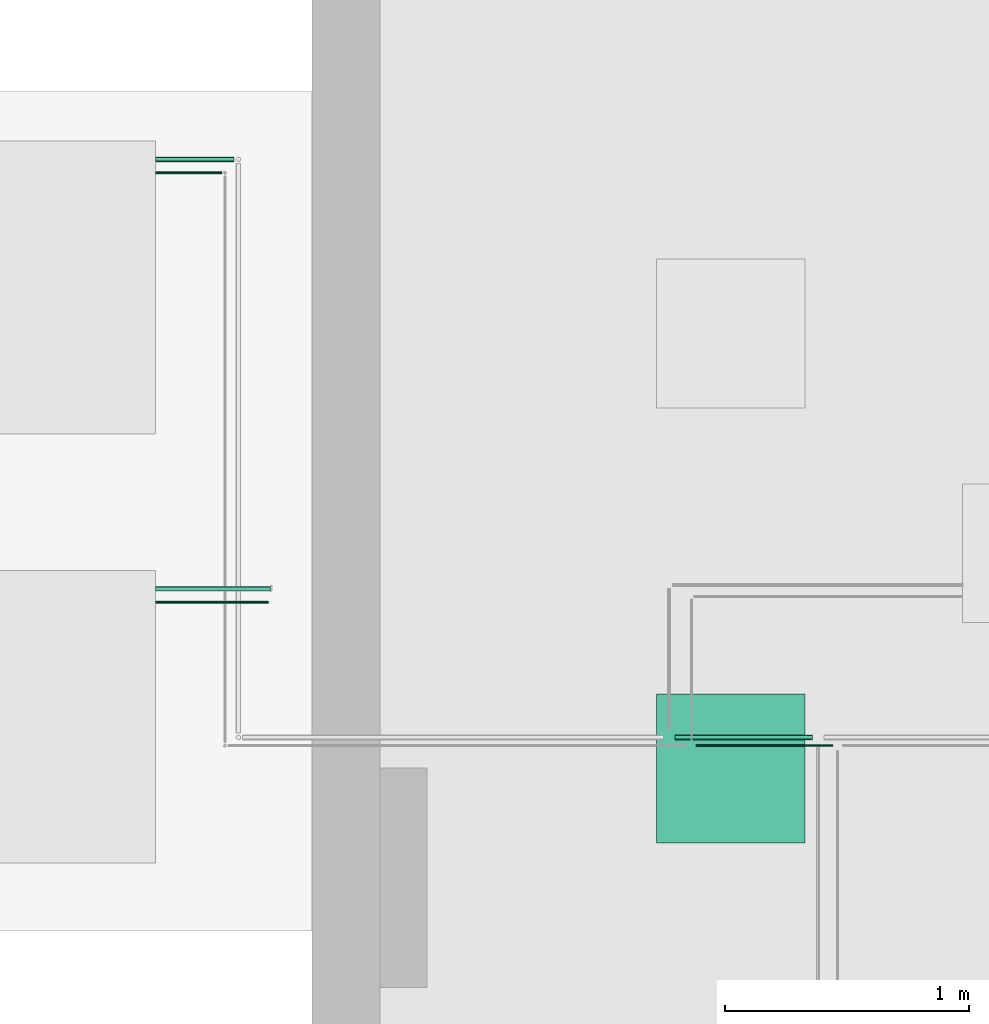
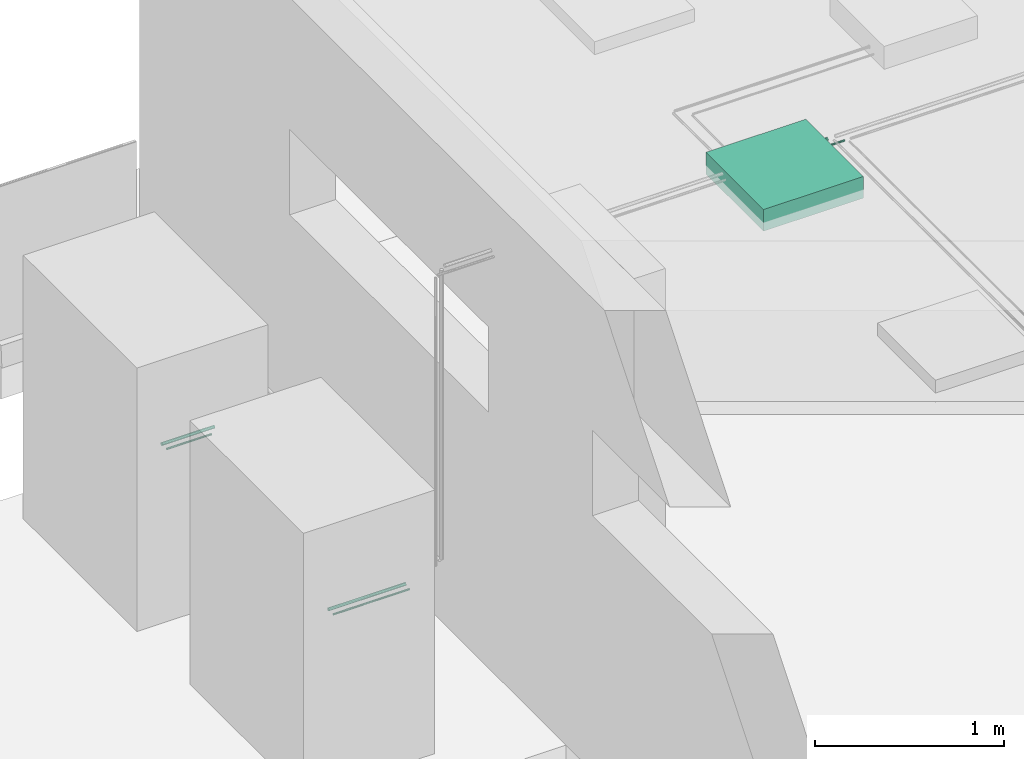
# One storey, part 9 of 22: 6 flow segments, 1 flow terminal.
"""IFC2X3 building model written with IfcOpenShell, lengths in millimetres."""

from ifc_helpers import new_model, entity, si_unit, converted_unit, derived_unit, direction, frame, frame_2d, origin, origin_2d_with_axis, place, context, subcontext, project, spatial, polyline, rectangle, circle, outline, extrude, source, transform, mapped, material, material_list, type_object, type_shapes, element, save


model = new_model("IFC2X3")

# Units and contexts
model_context = context("Model", 3, precision=0.01, world=origin(), true_north=direction((6.123031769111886e-17, 1.0)))
body_context = subcontext(model_context, "Body", "Model", "MODEL_VIEW")
ifc_project = project(units=[si_unit("LENGTHUNIT", "METRE", prefix="MILLI"), si_unit("AREAUNIT", "SQUARE_METRE"), si_unit("VOLUMEUNIT", "CUBIC_METRE"), converted_unit("PLANEANGLEUNIT", "DEGREE", entity("IfcRatioMeasure", 0.017453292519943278), si_unit("PLANEANGLEUNIT", "RADIAN"), dimensions=[0, 0, 0, 0, 0, 0, 0]), si_unit("MASSUNIT", "GRAM", prefix="KILO"), derived_unit("MASSDENSITYUNIT", [(si_unit("MASSUNIT", "GRAM", prefix="KILO"), 1), (si_unit("LENGTHUNIT", "METRE"), -3)]), derived_unit("MOMENTOFINERTIAUNIT", [(si_unit("LENGTHUNIT", "METRE"), 4)]), si_unit("TIMEUNIT", "SECOND"), si_unit("FREQUENCYUNIT", "HERTZ"), si_unit("THERMODYNAMICTEMPERATUREUNIT", "DEGREE_CELSIUS"), derived_unit("THERMALTRANSMITTANCEUNIT", [(si_unit("MASSUNIT", "GRAM", prefix="KILO"), 1), (si_unit("THERMODYNAMICTEMPERATUREUNIT", "KELVIN"), -1), (si_unit("TIMEUNIT", "SECOND"), -3)]), derived_unit("VOLUMETRICFLOWRATEUNIT", [(si_unit("LENGTHUNIT", "METRE"), 3), (si_unit("TIMEUNIT", "SECOND"), -1)]), derived_unit("MASSFLOWRATEUNIT", [(si_unit("MASSUNIT", "GRAM", prefix="KILO"), 1), (si_unit("TIMEUNIT", "SECOND"), -1)]), derived_unit("ROTATIONALFREQUENCYUNIT", [(si_unit("TIMEUNIT", "SECOND"), -1)]), si_unit("ELECTRICCURRENTUNIT", "AMPERE"), si_unit("ELECTRICVOLTAGEUNIT", "VOLT"), si_unit("POWERUNIT", "WATT"), si_unit("FORCEUNIT", "NEWTON", prefix="KILO"), si_unit("ILLUMINANCEUNIT", "LUX"), si_unit("LUMINOUSFLUXUNIT", "LUMEN"), si_unit("LUMINOUSINTENSITYUNIT", "CANDELA"), derived_unit("USERDEFINED", [(si_unit("MASSUNIT", "GRAM", prefix="KILO"), -1), (si_unit("LENGTHUNIT", "METRE"), -2), (si_unit("TIMEUNIT", "SECOND"), 3), (si_unit("LUMINOUSFLUXUNIT", "LUMEN"), 1)]), derived_unit("SOUNDPOWERUNIT", [(si_unit("MASSUNIT", "GRAM", prefix="KILO"), 1), (si_unit("LENGTHUNIT", "METRE"), 2), (si_unit("TIMEUNIT", "SECOND"), -3)]), derived_unit("SOUNDPRESSUREUNIT", [(si_unit("MASSUNIT", "GRAM", prefix="KILO"), 1), (si_unit("LENGTHUNIT", "METRE"), -1), (si_unit("TIMEUNIT", "SECOND"), -2)]), derived_unit("LINEARVELOCITYUNIT", [(si_unit("LENGTHUNIT", "METRE"), 1), (si_unit("TIMEUNIT", "SECOND"), -1)]), si_unit("PRESSUREUNIT", "PASCAL"), derived_unit("USERDEFINED", [(si_unit("LENGTHUNIT", "METRE"), -2), (si_unit("MASSUNIT", "GRAM", prefix="KILO"), 1), (si_unit("TIMEUNIT", "SECOND"), -2)]), derived_unit("LINEARFORCEUNIT", [(si_unit("MASSUNIT", "GRAM", prefix="KILO"), 1), (si_unit("LENGTHUNIT", "METRE"), 1), (si_unit("TIMEUNIT", "SECOND"), -2), (si_unit("LENGTHUNIT", "METRE"), -1)]), derived_unit("PLANARFORCEUNIT", [(si_unit("MASSUNIT", "GRAM", prefix="KILO"), 1), (si_unit("LENGTHUNIT", "METRE"), 1), (si_unit("TIMEUNIT", "SECOND"), -2), (si_unit("LENGTHUNIT", "METRE"), -2)])], contexts=[model_context])

# Site, building, storey
site_placement = place(None, origin())
site = spatial("IfcSite", under=ifc_project, at=site_placement, Name="Default", CompositionType="ELEMENT")
building_placement = place(site_placement, origin())
building = spatial("IfcBuilding", under=site, at=building_placement, CompositionType="ELEMENT")
storey_placement = place(building_placement, frame((0.0, 0.0, 3300.0)))
storey = spatial("IfcBuildingStorey", under=building, at=storey_placement, Name="Level 2", CompositionType="ELEMENT", Elevation=3299.99999999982)

# Flow segments
ifc_material_1 = material(Name="<Unnamed>")
pipe_segment_type_1 = type_object("IfcPipeSegmentType", Name="Pipe Types:Standard:Standard : Pipe Types:Standard", PredefinedType="NOTDEFINED", material=ifc_material_1)
shared_shape_1 = source(origin(), body_context, "Body", "SweptSolid", [
    extrude(circle(Radius=9.525, at=origin_2d_with_axis()), frame((-7935.738100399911, 1578.563184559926, 6010.0), z_axis=(1.0, 0.0, 0.0), x_axis=(0.0, 1.0, 0.0)), (0.0, 0.0, 1.0), 563.1476124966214),
])
type_shapes(pipe_segment_type_1, [shared_shape_1])
flow_segment_1_placement = place(storey_placement, frame((0.0, 0.0, -3300.0)))
element("IfcFlowSegment", 1, at=flow_segment_1_placement, inside=storey, type_object=pipe_segment_type_1, material=ifc_material_1, Name="Pipe Types:Standard:Standard : Pipe Types:Standard:Standard:Standard : Pipe Types:Standard : Pipe Types:Standard:Standard : Pipe Types:Standard", ObjectType="Pipe Types:Standard:Standard : Pipe Types:Standard:Standard:Standard : Pipe Types:Standard : Pipe Types:Standard:Standard : Pipe Types:Standard", context=body_context, shape_type="MappedRepresentation", body=[
    mapped(shared_shape_1, transform((0.0, 0.0, 0.0), scale=1.0)),
])
pipe_segment_type_2 = type_object("IfcPipeSegmentType", Name="Pipe Types:Standard:Standard : Pipe Types:Standard", PredefinedType="NOTDEFINED", material=ifc_material_1)
shared_shape_2 = source(origin(), body_context, "Body", "SweptSolid", [
    extrude(circle(Radius=4.76, at=origin_2d_with_axis()), frame((-7849.40872458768, 1545.4722089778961, 5990.0), z_axis=(1.0, 0.0, 0.0), x_axis=(0.0, 1.0, 0.0)), (0.0, 0.0, 1.0), 561.5807366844),
])
type_shapes(pipe_segment_type_2, [shared_shape_2])
flow_segment_2_placement = place(storey_placement, frame((0.0, 0.0, -3300.0)))
element("IfcFlowSegment", 2, at=flow_segment_2_placement, inside=storey, type_object=pipe_segment_type_2, material=ifc_material_1, Name="Pipe Types:Standard:Standard : Pipe Types:Standard:Standard:Standard : Pipe Types:Standard : Pipe Types:Standard:Standard : Pipe Types:Standard", ObjectType="Pipe Types:Standard:Standard : Pipe Types:Standard:Standard:Standard : Pipe Types:Standard : Pipe Types:Standard:Standard : Pipe Types:Standard", context=body_context, shape_type="MappedRepresentation", body=[
    mapped(shared_shape_2, transform((0.0, 0.0, 0.0), scale=1.0)),
])
pipe_segment_type_3 = type_object("IfcPipeSegmentType", Name="Pipe Types:Standard:Standard : Pipe Types:Standard", PredefinedType="NOTDEFINED", material=ifc_material_1)
shared_shape_3 = source(origin(), body_context, "Body", "SweptSolid", [
    extrude(circle(Radius=9.525, at=origin_2d_with_axis()), frame((-10066.3364234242, 3949.162789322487, 3546.7201873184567), z_axis=(1.0, 0.0, 0.0), x_axis=(0.0, -1.0, 0.0)), (0.0, 0.0, 1.0), 322.27046939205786),
])
type_shapes(pipe_segment_type_3, [shared_shape_3])
flow_segment_3_placement = place(storey_placement, frame((0.0, 0.0, -3300.0)))
element("IfcFlowSegment", 3, at=flow_segment_3_placement, inside=storey, type_object=pipe_segment_type_3, material=ifc_material_1, Name="Pipe Types:Standard:Standard : Pipe Types:Standard:Standard:Standard : Pipe Types:Standard : Pipe Types:Standard:Standard : Pipe Types:Standard", ObjectType="Pipe Types:Standard:Standard : Pipe Types:Standard:Standard:Standard : Pipe Types:Standard : Pipe Types:Standard:Standard : Pipe Types:Standard", context=body_context, shape_type="MappedRepresentation", body=[
    mapped(shared_shape_3, transform((0.0, 0.0, 0.0), scale=1.0)),
])
pipe_segment_type_4 = type_object("IfcPipeSegmentType", Name="Pipe Types:Standard:Standard : Pipe Types:Standard", PredefinedType="NOTDEFINED", material=ifc_material_1)
shared_shape_4 = source(origin(), body_context, "Body", "SweptSolid", [
    extrude(circle(Radius=4.76, at=origin_2d_with_axis()), frame((-10066.3364234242, 3894.162789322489, 3549.2201873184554), z_axis=(1.0, 0.0, 0.0), x_axis=(0.0, -1.0, 0.0)), (0.0, 0.0, 1.0), 272.0343112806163),
])
type_shapes(pipe_segment_type_4, [shared_shape_4])
flow_segment_4_placement = place(storey_placement, frame((0.0, 0.0, -3300.0)))
element("IfcFlowSegment", 4, at=flow_segment_4_placement, inside=storey, type_object=pipe_segment_type_4, material=ifc_material_1, Name="Pipe Types:Standard:Standard : Pipe Types:Standard:Standard:Standard : Pipe Types:Standard : Pipe Types:Standard:Standard : Pipe Types:Standard", ObjectType="Pipe Types:Standard:Standard : Pipe Types:Standard:Standard:Standard : Pipe Types:Standard : Pipe Types:Standard:Standard : Pipe Types:Standard", context=body_context, shape_type="MappedRepresentation", body=[
    mapped(shared_shape_4, transform((0.0, 0.0, 0.0), scale=1.0)),
])
pipe_segment_type_5 = type_object("IfcPipeSegmentType", Name="Pipe Types:Standard:Standard : Pipe Types:Standard", PredefinedType="NOTDEFINED", material=ifc_material_1)
shared_shape_5 = source(origin(), body_context, "Body", "SweptSolid", [
    extrude(circle(Radius=4.76, at=origin_2d_with_axis()), frame((-10066.336423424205, 2133.1645547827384, 3550.756524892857), z_axis=(1.0, 0.0, 0.0), x_axis=(0.0, -1.0, 0.0)), (0.0, 0.0, 1.0), 463.2743300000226),
])
type_shapes(pipe_segment_type_5, [shared_shape_5])
flow_segment_5_placement = place(storey_placement, frame((0.0, 0.0, -3300.0)))
element("IfcFlowSegment", 5, at=flow_segment_5_placement, inside=storey, type_object=pipe_segment_type_5, material=ifc_material_1, Name="Pipe Types:Standard:Standard : Pipe Types:Standard:Standard:Standard : Pipe Types:Standard : Pipe Types:Standard:Standard : Pipe Types:Standard", ObjectType="Pipe Types:Standard:Standard : Pipe Types:Standard:Standard:Standard : Pipe Types:Standard : Pipe Types:Standard:Standard : Pipe Types:Standard", context=body_context, shape_type="MappedRepresentation", body=[
    mapped(shared_shape_5, transform((0.0, 0.0, 0.0), scale=1.0)),
])
pipe_segment_type_6 = type_object("IfcPipeSegmentType", Name="Pipe Types:Standard:Standard : Pipe Types:Standard", PredefinedType="NOTDEFINED", material=ifc_material_1)
shared_shape_6 = source(origin(), body_context, "Body", "SweptSolid", [
    extrude(circle(Radius=9.525, at=origin_2d_with_axis()), frame((-10066.3364234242, 2188.1645547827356, 3548.2565248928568), z_axis=(1.0, 0.0, 0.0), x_axis=(0.0, -1.0, 0.0)), (0.0, 0.0, 1.0), 471.8280710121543),
])
type_shapes(pipe_segment_type_6, [shared_shape_6])
flow_segment_6_placement = place(storey_placement, frame((0.0, 0.0, -3300.0)))
element("IfcFlowSegment", 6, at=flow_segment_6_placement, inside=storey, type_object=pipe_segment_type_6, material=ifc_material_1, Name="Pipe Types:Standard:Standard : Pipe Types:Standard:Standard:Standard : Pipe Types:Standard : Pipe Types:Standard:Standard : Pipe Types:Standard", ObjectType="Pipe Types:Standard:Standard : Pipe Types:Standard:Standard:Standard : Pipe Types:Standard : Pipe Types:Standard:Standard : Pipe Types:Standard", context=body_context, shape_type="MappedRepresentation", body=[
    mapped(shared_shape_6, transform((0.0, 0.0, 0.0), scale=1.0)),
])

# Flow terminal
ifc_material_2 = material(Name="Glass, White, High Luminance")
ifc_material_3 = material(Name="Steel, Chrome Plated 155972")
ifc_material_list_1 = material_list([ifc_material_2, ifc_material_3, ifc_material_2, ifc_material_3])
ifc_material_list_2 = material_list([ifc_material_2, ifc_material_3, ifc_material_2, ifc_material_3])
light_fixture_type = type_object("IfcLightFixtureType", Name="M_Troffer Light - Parabolic Square control rooms:0600x0600mm(2 Lamp) - 120V:0600x0600mm(2 Lamp) - 120V : M_Troffer Light - Parabolic Square control rooms:0600x0600mm(2 Lamp) - 120V", PredefinedType="NOTDEFINED", material=ifc_material_list_2)
shared_shape_7 = source(origin(), body_context, "Body", "SweptSolid", [
    extrude(rectangle(XDim=558.8000000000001, YDim=558.7999999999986, at=frame_2d((5.684341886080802e-14, 0.0), x_axis=(1.0, 0.0))), frame((-7707.35577874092, 1451.1913189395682, 5976.19999999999), z_axis=(0.0, 0.0, 1.0), x_axis=(0.0, 1.0, 0.0)), (0.0, 0.0, 1.0), 6.350000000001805),
    extrude(outline(polyline([(-304.8, -304.8), (304.8000000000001, -304.8), (304.8000000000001, 304.8), (-304.8, 304.8), (-304.8, -304.8)]), holes=[polyline([(279.40000000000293, 279.3999999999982), (279.40000000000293, -279.40000000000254), (-279.39999999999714, -279.40000000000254), (-279.39999999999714, 279.3999999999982), (279.40000000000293, 279.3999999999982)])]), frame((-7707.35577874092, 1451.1913189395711, 5900.0), z_axis=(0.0, 0.0, 1.0), x_axis=(0.0, -1.0, 0.0)), (0.0, 0.0, 1.0), 114.2999999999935),
    extrude(rectangle(XDim=558.8000000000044, YDim=558.7999999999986, at=frame_2d((5.684341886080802e-14, 0.0), x_axis=(1.0, 0.0))), frame((-7707.35577874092, 1451.1913189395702, 5890.0), z_axis=(0.0, 0.0, 1.0), x_axis=(0.0, 1.0, 0.0)), (0.0, 0.0, 1.0), 60.00000000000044),
    extrude(rectangle(XDim=609.5999999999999, YDim=609.6000000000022, at=frame_2d((5.684341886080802e-14, 0.0), x_axis=(1.0, 0.0))), frame((-7707.35577874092, 1451.1913189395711, 6014.299999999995), z_axis=(0.0, 0.0, 1.0), x_axis=(0.0, 1.0, 0.0)), (0.0, 0.0, 1.0), 25.399999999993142),
])
type_shapes(light_fixture_type, [shared_shape_7])
flow_terminal_placement = place(storey_placement, frame((0.0, 0.0, -3300.0)))
element("IfcFlowTerminal", 7, at=flow_terminal_placement, inside=storey, type_object=light_fixture_type, material=ifc_material_list_1, context=body_context, shape_type="MappedRepresentation", body=[
    mapped(shared_shape_7, transform((0.0, 0.0, 0.0), scale=1.0)),
])

save(model, "model.ifc")
